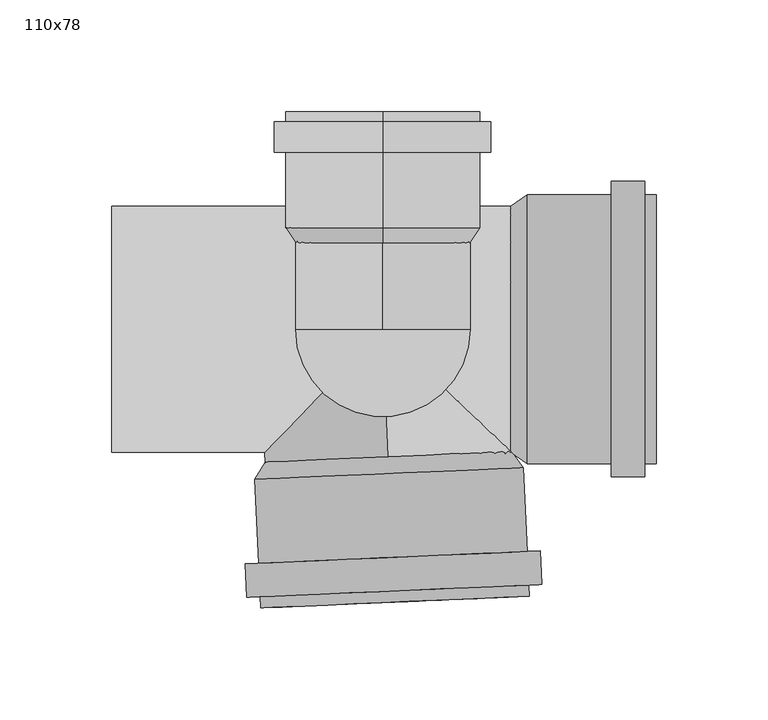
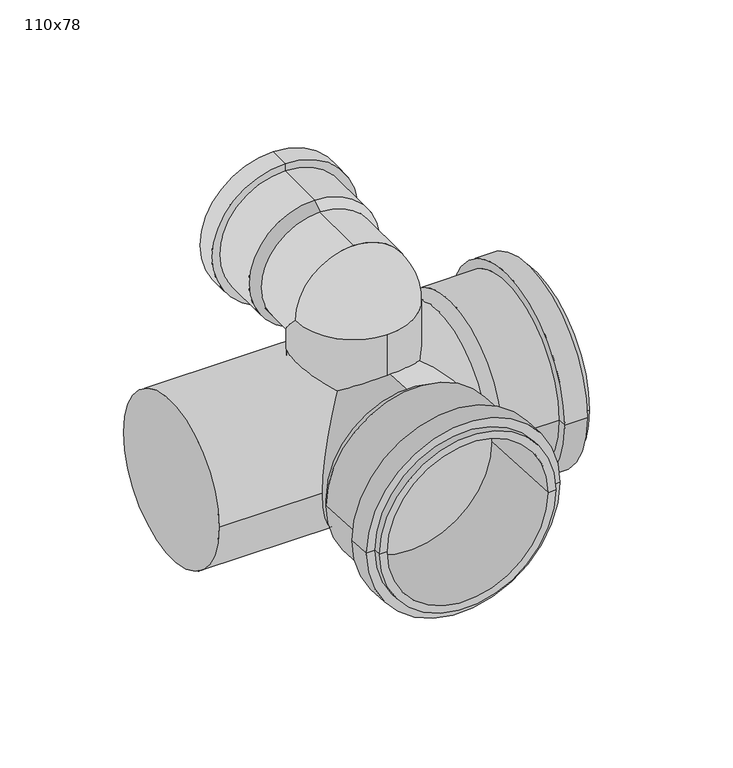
"""IFC4 building model written with IfcOpenShell, lengths in millimetres: pipe fitting geometry, AliaxisFR_Friaphon_LeftMultipleBranch_FR : 110x78."""

import ifcopenshell
import ifcopenshell.guid

model = None  # the IFC model being written
_history = None  # IfcOwnerHistory: only IFC2X3 demands one
_inside = {}  # id of a spatial element -> (the spatial element, [elements in it])
_under = {}  # id of a project, library or spatial element -> (it, [spatial elements below it])
_declared = {}  # id of a project -> (the project, [libraries it declares])
_typed = {}  # id of a type object -> (the type object, [elements of that type])
_made_of = {}  # id of a material, layer set ... -> (it, [elements and type objects made of it])


def new_model(schema):
    """Start an empty IFC model of exactly this schema.

    Asked for "IFC4X3", IfcOpenShell would pick the latest addendum, in which some entities
    have other attributes; the version numbers below select the first issue.
    IFC2X3 requires an IfcOwnerHistory on every rooted entity: one is made here for all.
    """
    global model, _history
    if schema == "IFC4X3":
        model = ifcopenshell.file(schema_version=(4, 3, 0, 0))
    else:
        model = ifcopenshell.file(schema=schema)
    _inside.clear()
    _under.clear()
    _declared.clear()
    _typed.clear()
    _made_of.clear()
    _history = None
    if model.schema == "IFC2X3":
        org = make("IfcOrganization", Name="unknown")
        user = make(
            "IfcPersonAndOrganization",
            ThePerson=make("IfcPerson", FamilyName="unknown"),
            TheOrganization=org,
        )
        app = make(
            "IfcApplication",
            ApplicationDeveloper=org,
            Version="unknown",
            ApplicationFullName="unknown",
            ApplicationIdentifier="unknown",
        )
        _history = make(
            "IfcOwnerHistory",
            OwningUser=user,
            OwningApplication=app,
            ChangeAction="ADDED",
            CreationDate=0,
        )
    return model


def make(cls, **values):
    """One entity of the class cls with the attributes given. An attribute that is None is left unset."""
    return model.create_entity(
        cls, **{name: value for name, value in values.items() if value is not None}
    )


def rooted(cls, **values):
    """An entity with a GlobalId (a new one), such as an element, a storey or a relation."""
    return make(cls, GlobalId=ifcopenshell.guid.new(), OwnerHistory=_history, **values)


def si_unit(unit_type, name, prefix=None):
    """IfcSIUnit, for example si_unit("LENGTHUNIT", "METRE", prefix="MILLI")."""
    return make("IfcSIUnit", UnitType=unit_type, Prefix=prefix, Name=name)


def assignment(units):
    """IfcUnitAssignment: the units of a project."""
    return None if units is None else make("IfcUnitAssignment", Units=units)


def point(xyz):
    """IfcCartesianPoint."""
    return None if xyz is None else make("IfcCartesianPoint", Coordinates=xyz)


def direction(xyz):
    """IfcDirection."""
    return None if xyz is None else make("IfcDirection", DirectionRatios=xyz)


def frame(location, z_axis=None, x_axis=None):
    """IfcAxis2Placement3D, a coordinate frame: its origin and axes. An axis left out is left unset."""
    return make(
        "IfcAxis2Placement3D",
        Location=point(location),
        Axis=direction(z_axis),
        RefDirection=direction(x_axis),
    )


def origin():
    """The frame at (0, 0, 0) with its axes left unset."""
    return frame((0.0, 0.0, 0.0))


def place(relative_to, where):
    """IfcLocalPlacement: puts the frame where relative to a parent placement (None: the world)."""
    return make(
        "IfcLocalPlacement", PlacementRelTo=relative_to, RelativePlacement=where
    )


def context(
    kind, dimensions, precision=None, world=None, true_north=None, identifier=None
):
    """IfcGeometricRepresentationContext, for example the 3D "Model" context."""
    return make(
        "IfcGeometricRepresentationContext",
        ContextIdentifier=identifier,
        ContextType=kind,
        CoordinateSpaceDimension=dimensions,
        Precision=precision,
        WorldCoordinateSystem=world,
        TrueNorth=true_north,
    )


def project(units=None, contexts=None):
    """IfcProject with its units and contexts."""
    return rooted(
        "IfcProject",
        Name="project",
        RepresentationContexts=contexts,
        UnitsInContext=assignment(units),
    )


def spatial(cls, under=None, at=None, **own):
    """A site, building, storey or space (cls), placed at a placement, below another one or the project."""
    s = rooted(cls, ObjectPlacement=at, **own)
    if under is not None:
        _under.setdefault(under.id(), (under, []))[1].append(s)
    return s


def polyline(points):
    """IfcPolyline through the points."""
    return make("IfcPolyline", Points=[point(p) for p in points])


def circle_curve(where, radius):
    """IfcCircle in the frame where."""
    return make("IfcCircle", Position=where, Radius=radius)


def ellipse_curve(where, semi_axis1, semi_axis2):
    """IfcEllipse in the frame where."""
    return make(
        "IfcEllipse", Position=where, SemiAxis1=semi_axis1, SemiAxis2=semi_axis2
    )


def trimmed(basis, trim1, trim2, sense, master):
    """IfcTrimmedCurve: the piece of a basis curve between two trims."""
    return make(
        "IfcTrimmedCurve",
        BasisCurve=basis,
        Trim1=trim1,
        Trim2=trim2,
        SenseAgreement=sense,
        MasterRepresentation=master,
    )


def shape(context_of_items, identifier, shape_type, items):
    """IfcShapeRepresentation: the items that make up one representation, for example the "Body"."""
    return make(
        "IfcShapeRepresentation",
        ContextOfItems=context_of_items,
        RepresentationIdentifier=identifier,
        RepresentationType=shape_type,
        Items=items,
    )


def source(mapping_origin, context_of_items, identifier, shape_type, items):
    """IfcRepresentationMap: a shape defined once, which mapped items show again and again."""
    return make(
        "IfcRepresentationMap",
        MappingOrigin=mapping_origin,
        MappedRepresentation=shape(context_of_items, identifier, shape_type, items),
    )


def transform(
    local_origin,
    x_axis=None,
    y_axis=None,
    z_axis=None,
    scale=None,
    scale2=None,
    scale3=None,
    uniform=True,
):
    """IfcCartesianTransformationOperator3D, or its non-uniform kind. x_axis, y_axis, z_axis: its Axis1, 2, 3."""
    if uniform:
        return make(
            "IfcCartesianTransformationOperator3D",
            Axis1=direction(x_axis),
            Axis2=direction(y_axis),
            LocalOrigin=point(local_origin),
            Scale=scale,
            Axis3=direction(z_axis),
        )
    return make(
        "IfcCartesianTransformationOperator3DnonUniform",
        Axis1=direction(x_axis),
        Axis2=direction(y_axis),
        LocalOrigin=point(local_origin),
        Scale=scale,
        Axis3=direction(z_axis),
        Scale2=scale2,
        Scale3=scale3,
    )


def mapped(mapping_source, mapping_target):
    """IfcMappedItem: shows the shape of a source again, moved by a transform."""
    return make(
        "IfcMappedItem", MappingSource=mapping_source, MappingTarget=mapping_target
    )


def made_of(thing, what):
    """Note that an element or type object is made of a material, layer set ...; save() writes the relation."""
    if what is not None:
        _made_of.setdefault(what.id(), (what, []))[1].append(thing)
    return thing


def element(
    cls,
    number,
    at=None,
    inside=None,
    cuts=None,
    type_object=None,
    material=None,
    context=None,
    identifier="Body",
    shape_type=None,
    held_by="IfcProductDefinitionShape",
    body=None,
    shapes=None,
    **own,
):
    """One element of the class cls, such as IfcWall. Its Tag is "e" and its number.

    at: its placement. inside: the storey or other place that contains it. cuts: it is an
    opening in that element (IfcRelVoidsElement). A single representation is given by context,
    identifier, shape_type and body (its items); several are given by shapes. held_by: the class
    of the entity that holds the representations. save() writes the other relations.
    """
    e = rooted(cls, Tag="e%d" % number, ObjectPlacement=at, **own)
    if body is not None:
        shapes = [shape(context, identifier, shape_type, body)]
    if shapes is not None:
        e.Representation = make(held_by, Representations=shapes)
    if inside is not None:
        _inside.setdefault(inside.id(), (inside, []))[1].append(e)
    if cuts is not None:
        rooted(
            "IfcRelVoidsElement", RelatingBuildingElement=cuts, RelatedOpeningElement=e
        )
    if type_object is not None:
        _typed.setdefault(type_object.id(), (type_object, []))[1].append(e)
    return made_of(e, material)


def aggregate(whole, parts):
    """IfcRelAggregates: a whole, such as a stair, and the parts it consists of."""
    return rooted("IfcRelAggregates", RelatingObject=whole, RelatedObjects=parts)


def save(model, path):
    """Write the relations noted so far, then the file.

    IfcRelAggregates (storeys below a building ...), IfcRelContainedInSpatialStructure (elements
    in a storey), IfcRelDefinesByType, IfcRelAssociatesMaterial and IfcRelDeclares: one each for
    every whole, place, type object, material and project.
    """
    for whole, parts in _under.values():
        aggregate(whole, parts)
    for where, things in _inside.values():
        rooted(
            "IfcRelContainedInSpatialStructure",
            RelatedElements=things,
            RelatingStructure=where,
        )
    for kind, things in _typed.values():
        rooted("IfcRelDefinesByType", RelatedObjects=things, RelatingType=kind)
    for what, things in _made_of.values():
        rooted("IfcRelAssociatesMaterial", RelatedObjects=things, RelatingMaterial=what)
    for by, libraries in _declared.values():
        rooted("IfcRelDeclares", RelatingContext=by, RelatedDefinitions=libraries)
    model.write(path)


def plane_surface(at):
    """IfcPlane: the flat surface through the origin of the frame at, square to its z axis."""
    return make("IfcPlane", Position=at)


def cylinder_surface(at, radius):
    """IfcCylindricalSurface: all points at the distance radius from the z axis of the frame at."""
    return make("IfcCylindricalSurface", Position=at, Radius=radius)


def revolved_surface(curve, axis_point, axis_direction):
    """IfcSurfaceOfRevolution: the curve turned about the line through axis_point along axis_direction."""
    return make(
        "IfcSurfaceOfRevolution",
        SweptCurve=make("IfcArbitraryOpenProfileDef", ProfileType="CURVE", Curve=curve),
        AxisPosition=make("IfcAxis1Placement", Location=point(axis_point), Axis=direction(axis_direction)),
    )


def advanced_brep(points, edges, surfaces, faces):
    """IfcAdvancedBrep: a solid bounded by faces that lie on surfaces and meet in shared edges.

    An edge is (start, end): straight between two places in points (the first is 0);
    or (start, end, curve); or (start, end, curve, False) where it runs against its curve.
    A face is (place in surfaces, loops), or (place, loops, False) where it looks against
    its surface's normal. A loop lists edges by number (the first is 1), with a minus sign
    where the edge is run from its end to its start. The first loop is the outer one.
    """
    corners = [point(p) for p in points]
    vertices = [make("IfcVertexPoint", VertexGeometry=c) for c in corners]
    made = []
    for start, end, *more in edges:
        made.append(
            make(
                "IfcEdgeCurve",
                EdgeStart=vertices[start],
                EdgeEnd=vertices[end],
                EdgeGeometry=more[0] if more else make("IfcPolyline", Points=[corners[start], corners[end]]),
                SameSense=more[1] if len(more) > 1 else True,
            )
        )
    hull = []
    for where, loops, *sense in faces:
        bounds = []
        for j, loop in enumerate(loops):
            ring = [make("IfcOrientedEdge", EdgeElement=made[abs(k) - 1], Orientation=k > 0) for k in loop]
            bounds.append(
                make(
                    "IfcFaceOuterBound" if j == 0 else "IfcFaceBound",
                    Bound=make("IfcEdgeLoop", EdgeList=ring),
                    Orientation=True,
                )
            )
        hull.append(make("IfcAdvancedFace", Bounds=bounds, FaceSurface=surfaces[where], SameSense=sense[0] if sense else True))
    return make("IfcAdvancedBrep", Outer=make("IfcClosedShell", CfsFaces=hull))


def pipe_fitting_110x78_2bed6c42(model_context):
    return source(origin(), model_context, "Body", "AdvancedBrep", [
        advanced_brep(
        [(0.0, 97.0, 126.4), (0.0, 97.0, 122.0), (0.0, 97.0, 44.0), (0.0, 97.0, 39.6), (0.0, 79.0, 131.5), (0.0, 92.6, 131.5), (0.0, 92.6, 34.5), (0.0, 79.0, 34.5), (0.0, 79.0, 126.4), (0.0, 79.0, 39.6), (0.0, 45.2, 126.4), (0.0, 45.2, 39.6), (0.0, 38.6, 122.0), (0.0, 38.6, 44.0), (0.0, 92.6, 126.4), (0.0, 92.6, 39.6)],
        [
            (0, 1),
            (1, 2, circle_curve(frame((0.0, 97.0, 83.0), z_axis=(0.0, -1.0, 0.0), x_axis=(0.0, 0.0, -1.0)), 39.0)),
            (2, 3),
            (3, 0, circle_curve(frame((0.0, 97.0, 83.0), z_axis=(0.0, 1.0, 0.0), x_axis=(0.0, 0.0, -1.0)), 43.4)),
            (2, 1, circle_curve(frame((0.0, 97.0, 83.0), z_axis=(0.0, -1.0, 0.0), x_axis=(0.0, 0.0, -1.0)), 39.0)),
            (0, 3, circle_curve(frame((0.0, 97.0, 83.0), z_axis=(0.0, 1.0, 0.0), x_axis=(0.0, 0.0, -1.0)), 43.4)),
            (4, 5),
            (5, 6, circle_curve(frame((0.0, 92.6, 83.0), z_axis=(0.0, -1.0, 0.0), x_axis=(0.0, 0.0, -1.0)), 48.5)),
            (6, 7),
            (7, 4, circle_curve(frame((0.0, 79.0, 83.0), z_axis=(0.0, 1.0, 0.0), x_axis=(0.0, 0.0, -1.0)), 48.5)),
            (6, 5, circle_curve(frame((0.0, 92.6, 83.0), z_axis=(0.0, -1.0, 0.0), x_axis=(0.0, 0.0, -1.0)), 48.5)),
            (4, 7, circle_curve(frame((0.0, 79.0, 83.0), z_axis=(0.0, 1.0, 0.0), x_axis=(0.0, 0.0, -1.0)), 48.5)),
            (8, 4),
            (7, 9),
            (9, 8, circle_curve(frame((0.0, 79.0, 83.0), z_axis=(0.0, 1.0, 0.0), x_axis=(0.0, 0.0, -1.0)), 43.4)),
            (8, 9, circle_curve(frame((0.0, 79.0, 83.0), z_axis=(0.0, 1.0, 0.0), x_axis=(0.0, 0.0, -1.0)), 43.4)),
            (10, 8),
            (9, 11),
            (11, 10, circle_curve(frame((0.0, 45.2, 83.0), z_axis=(0.0, 1.0, 0.0), x_axis=(0.0, 0.0, -1.0)), 43.4)),
            (10, 11, circle_curve(frame((0.0, 45.2, 83.0), z_axis=(0.0, 1.0, 0.0), x_axis=(0.0, 0.0, -1.0)), 43.4)),
            (1, 12),
            (12, 13, circle_curve(frame((0.0, 38.6, 83.0), z_axis=(0.0, -1.0, 0.0), x_axis=(0.0, 0.0, -1.0)), 39.0)),
            (13, 2),
            (13, 12, circle_curve(frame((0.0, 38.6, 83.0), z_axis=(0.0, -1.0, 0.0), x_axis=(0.0, 0.0, -1.0)), 39.0)),
            (12, 10),
            (11, 13),
            (14, 0),
            (3, 15),
            (15, 14, circle_curve(frame((0.0, 92.6, 83.0), z_axis=(0.0, 1.0, 0.0), x_axis=(0.0, 0.0, -1.0)), 43.4)),
            (14, 15, circle_curve(frame((0.0, 92.6, 83.0), z_axis=(0.0, 1.0, 0.0), x_axis=(0.0, 0.0, -1.0)), 43.4)),
            (5, 14),
            (15, 6),
        ],
        [
            plane_surface(frame((0.0, 97.0, 83.0), z_axis=(0.0, 1.0, 0.0), x_axis=(0.0, 0.0, -1.0))),
            cylinder_surface(frame((0.0, 38.6, 83.0), z_axis=(0.0, -1.0, 0.0), x_axis=(0.0, 0.0, -1.0)), 48.5),
            plane_surface(frame((0.0, 79.0, 83.0), z_axis=(0.0, -1.0, 0.0), x_axis=(0.0, 0.0, -1.0))),
            cylinder_surface(frame((0.0, 38.6, 83.0), z_axis=(0.0, -1.0, 0.0), x_axis=(0.0, 0.0, -1.0)), 43.4),
            revolved_surface(polyline([(0.0, 38.6, 44.0), (0.0, 97.0, 44.0)]), (0.0, 38.6, 83.0), (0.0, -1.0, 0.0)),
            revolved_surface(polyline([(0.0, 45.2, 39.6), (0.0, 38.6, 44.0)]), (0.0, 38.6, 83.0), (0.0, -1.0, 0.0)),
            plane_surface(frame((0.0, 92.6, 83.0), z_axis=(0.0, 1.0, 0.0), x_axis=(0.0, 0.0, -1.0))),
        ],
        [
            (0, [[1, 2, 3, 4]]),
            (0, [[-3, 5, -1, 6]]),
            (1, [[7, 8, 9, 10]]),
            (1, [[-9, 11, -7, 12]]),
            (2, [[13, -10, 14, 15]]),
            (2, [[-14, -12, -13, 16]]),
            (3, [[17, -15, 18, 19]]),
            (3, [[-18, -16, -17, 20]]),
            (4, [[21, 22, 23, -2]]),
            (4, [[-23, 24, -21, -5]]),
            (5, [[25, -19, 26, -22]]),
            (5, [[-26, -20, -25, -24]]),
            (3, [[27, -4, 28, 29]]),
            (3, [[-28, -6, -27, 30]]),
            (6, [[31, -29, 32, -8]]),
            (6, [[-32, -30, -31, -11]]),
        ],
    ),
        advanced_brep(
        [(0.0, 43.0, 122.0), (0.0, 43.0, 44.0), (0.0, 0.0, 122.0), (39.0, 0.0, 83.0), (0.0, 39.0, 44.0), (-39.0, 0.0, 83.0), (0.0, -39.0, -12.0), (0.0, 39.0, -12.0), (0.0, -39.0, 83.0)],
        [
            (0, 1, circle_curve(frame((0.0, 43.0, 83.0), z_axis=(0.0, 1.0, 0.0), x_axis=(0.0, 0.0, -1.0)), 39.0)),
            (1, 0, circle_curve(frame((0.0, 43.0, 83.0), z_axis=(0.0, 1.0, 0.0), x_axis=(0.0, 0.0, -1.0)), 39.0)),
            (0, 2),
            (2, 3, circle_curve(frame((0.0, 0.0, 83.0), z_axis=(0.0, 1.0, 0.0), x_axis=(0.0, 0.0, -1.0)), 39.0)),
            (3, 4, ellipse_curve(frame((0.0, 0.0, 83.0), z_axis=(0.0, 0.7071067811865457, 0.7071067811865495), x_axis=(0.0, -0.7071067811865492, 0.7071067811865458)), 55.1543289, 39.0)),
            (4, 1),
            (4, 5, ellipse_curve(frame((0.0, 0.0, 83.0), z_axis=(0.0, 0.7071067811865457, 0.7071067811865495), x_axis=(0.0, -0.7071067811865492, 0.7071067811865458)), 55.1543289, 39.0)),
            (5, 2, circle_curve(frame((0.0, 0.0, 83.0), z_axis=(0.0, 1.0, 0.0), x_axis=(0.0, 0.0, -1.0)), 39.0)),
            (6, 7, circle_curve(frame((0.0, 0.0, -12.0), z_axis=(0.0, 0.0, -1.0), x_axis=(0.0, 1.0, 0.0)), 39.0)),
            (7, 6, circle_curve(frame((0.0, 0.0, -12.0), z_axis=(0.0, 0.0, -1.0), x_axis=(0.0, 1.0, 0.0)), 39.0)),
            (7, 4),
            (3, 8, circle_curve(frame((0.0, 0.0, 83.0), z_axis=(0.0, 0.0, -1.0), x_axis=(0.0, 1.0, 0.0)), 39.0)),
            (8, 6),
            (8, 5, circle_curve(frame((0.0, 0.0, 83.0), z_axis=(0.0, 0.0, -1.0), x_axis=(0.0, 1.0, 0.0)), 39.0)),
        ],
        [
            plane_surface(frame((0.0, 43.0, 83.0), z_axis=(0.0, 1.0, 0.0), x_axis=(1.0, 0.0, 0.0))),
            cylinder_surface(frame((0.0, 0.0, 83.0), z_axis=(0.0, -1.0, 0.0), x_axis=(0.0, 0.0, -1.0)), 39.0),
            plane_surface(frame((0.0, 0.0, -12.0), z_axis=(0.0, 0.0, -1.0), x_axis=(1.0, 0.0, 0.0))),
            cylinder_surface(frame((0.0, 0.0, -12.0), z_axis=(0.0, 0.0, -1.0), x_axis=(0.0, 1.0, 0.0)), 39.0),
            revolved_surface(trimmed(ellipse_curve(frame((0.0, 0.0, 83.0), z_axis=(0.0, -1.0, 0.0), x_axis=(0.0, 0.0, -1.0)), 39.0, 39.0), [point((39.0, 0.0, 83.0))], [point((-39.0, 0.0, 83.0))], True, "CARTESIAN"), (39.0, 0.0, 83.0), (-1.0, 0.0, 0.0)),
        ],
        [
            (0, [[1, 2]]),
            (1, [[3, 4, 5, 6, -1]]),
            (1, [[-6, 7, 8, -3, -2]]),
            (2, [[9, 10]]),
            (3, [[11, -5, 12, 13, -10]]),
            (3, [[-13, 14, -7, -11, -9]]),
            (4, [[-4, -8, -14, -12]]),
        ],
    ),
        advanced_brep(
        [(-54.621328, -124.5010463, 0.0), (65.2644586, -119.2667198, 0.0), (60.2692174, -119.4848167, 0.0), (-49.6260869, -124.2829493, 0.0), (-61.4880051, -104.7817982, 0.0), (70.3863601, -99.024039, 0.0), (71.0406509, -114.0097624, 0.0), (-60.8337143, -119.7675215, 0.0), (-55.4937158, -104.5200818, 0.0), (64.3920708, -99.2857554, 0.0), (-57.1294428, -67.0557735, 0.0), (62.7563438, -61.8214471, 0.0), (57.4339573, -54.5466823, 0.0), (-52.4613471, -59.3448149, 0.0), (-54.839425, -119.5058052, 0.0), (65.0463616, -114.2714787, 0.0)],
        [
            (0, 1, circle_curve(frame((5.3215653, -121.883883, 0.0), z_axis=(0.04361938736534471, -0.9990482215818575, 0.0), x_axis=(0.9990482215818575, 0.04361938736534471, 0.0)), 60.0)),
            (1, 2),
            (2, 3, circle_curve(frame((5.3215653, -121.883883, 0.0), z_axis=(-0.04361938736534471, 0.9990482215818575, 0.0), x_axis=(0.9990482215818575, 0.04361938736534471, 0.0)), 55.0)),
            (3, 0),
            (1, 0, circle_curve(frame((5.3215653, -121.883883, 0.0), z_axis=(0.04361938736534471, -0.9990482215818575, 0.0), x_axis=(0.9990482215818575, 0.04361938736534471, 0.0)), 60.0)),
            (3, 2, circle_curve(frame((5.3215653, -121.883883, 0.0), z_axis=(-0.04361938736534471, 0.9990482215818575, 0.0), x_axis=(0.9990482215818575, 0.04361938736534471, 0.0)), 55.0)),
            (4, 5, circle_curve(frame((4.4491775, -101.9029186, 0.0), z_axis=(0.04361938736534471, -0.9990482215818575, 0.0), x_axis=(0.9990482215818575, 0.04361938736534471, 0.0)), 66.0)),
            (5, 6),
            (6, 7, circle_curve(frame((5.1034683, -116.8886419, 0.0), z_axis=(-0.04361938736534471, 0.9990482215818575, 0.0), x_axis=(0.9990482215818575, 0.04361938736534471, 0.0)), 66.0)),
            (7, 4),
            (5, 4, circle_curve(frame((4.4491775, -101.9029186, 0.0), z_axis=(0.04361938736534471, -0.9990482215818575, 0.0), x_axis=(0.9990482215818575, 0.04361938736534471, 0.0)), 66.0)),
            (7, 6, circle_curve(frame((5.1034683, -116.8886419, 0.0), z_axis=(-0.04361938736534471, 0.9990482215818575, 0.0), x_axis=(0.9990482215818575, 0.04361938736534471, 0.0)), 66.0)),
            (8, 9, circle_curve(frame((4.4491775, -101.9029186, 0.0), z_axis=(0.04361938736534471, -0.9990482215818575, 0.0), x_axis=(0.9990482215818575, 0.04361938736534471, 0.0)), 60.0)),
            (9, 5),
            (4, 8),
            (9, 8, circle_curve(frame((4.4491775, -101.9029186, 0.0), z_axis=(0.04361938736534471, -0.9990482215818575, 0.0), x_axis=(0.9990482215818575, 0.04361938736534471, 0.0)), 60.0)),
            (10, 11, circle_curve(frame((2.8134505, -64.4386103, 0.0), z_axis=(0.04361938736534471, -0.9990482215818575, 0.0), x_axis=(0.9990482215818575, 0.04361938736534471, 0.0)), 60.0)),
            (11, 9),
            (8, 10),
            (11, 10, circle_curve(frame((2.8134505, -64.4386103, 0.0), z_axis=(0.04361938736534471, -0.9990482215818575, 0.0), x_axis=(0.9990482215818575, 0.04361938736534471, 0.0)), 60.0)),
            (2, 12),
            (12, 13, circle_curve(frame((2.4863051, -56.9457486, 0.0), z_axis=(-0.04361938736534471, 0.9990482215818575, 0.0), x_axis=(0.9990482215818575, 0.04361938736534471, 0.0)), 55.0)),
            (13, 3),
            (13, 12, circle_curve(frame((2.4863051, -56.9457486, 0.0), z_axis=(-0.04361938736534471, 0.9990482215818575, 0.0), x_axis=(0.9990482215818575, 0.04361938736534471, 0.0)), 55.0)),
            (12, 11),
            (10, 13),
            (14, 15, circle_curve(frame((5.1034683, -116.8886419, 0.0), z_axis=(0.04361938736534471, -0.9990482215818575, 0.0), x_axis=(0.9990482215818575, 0.04361938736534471, 0.0)), 60.0)),
            (15, 1),
            (0, 14),
            (15, 14, circle_curve(frame((5.1034683, -116.8886419, 0.0), z_axis=(0.04361938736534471, -0.9990482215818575, 0.0), x_axis=(0.9990482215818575, 0.04361938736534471, 0.0)), 60.0)),
            (6, 15),
            (14, 7),
        ],
        [
            plane_surface(frame((5.3215653, -121.883883, 0.0), z_axis=(0.04361938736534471, -0.9990482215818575, 0.0), x_axis=(0.9990482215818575, 0.04361938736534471, 0.0))),
            cylinder_surface(frame((2.4863051, -56.9457486, 0.0), z_axis=(-0.04361938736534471, 0.9990482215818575, 0.0), x_axis=(0.9990482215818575, 0.04361938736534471, 0.0)), 66.0),
            plane_surface(frame((4.4491775, -101.9029186, 0.0), z_axis=(-0.04361938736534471, 0.9990482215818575, 0.0), x_axis=(0.9990482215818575, 0.04361938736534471, 0.0))),
            cylinder_surface(frame((2.4863051, -56.9457486, 0.0), z_axis=(-0.04361938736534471, 0.9990482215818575, 0.0), x_axis=(0.9990482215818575, 0.04361938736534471, 0.0)), 60.0),
            revolved_surface(polyline([(57.43395728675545, -54.54668228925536, 0.0), (60.269217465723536, -119.48481669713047, 0.0)]), (2.4863051, -56.9457486, 0.0), (-0.04361938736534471, 0.9990482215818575, 0.0)),
            revolved_surface(polyline([(62.7563438, -61.8214471, 0.0), (57.4339573, -54.5466823, 0.0)]), (2.4863051, -56.9457486, 0.0), (-0.04361938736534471, 0.9990482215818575, 0.0)),
            plane_surface(frame((5.1034683, -116.8886419, 0.0), z_axis=(0.04361938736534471, -0.9990482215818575, 0.0), x_axis=(0.9990482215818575, 0.04361938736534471, 0.0))),
        ],
        [
            (0, [[1, 2, 3, 4]]),
            (0, [[5, -4, 6, -2]]),
            (1, [[7, 8, 9, 10]]),
            (1, [[11, -10, 12, -8]]),
            (2, [[13, 14, -7, 15]]),
            (2, [[16, -15, -11, -14]]),
            (3, [[17, 18, -13, 19]]),
            (3, [[20, -19, -16, -18]]),
            (4, [[-3, 21, 22, 23]]),
            (4, [[-6, -23, 24, -21]]),
            (5, [[-22, 25, -17, 26]]),
            (5, [[-24, -26, -20, -25]]),
            (3, [[27, 28, -1, 29]]),
            (3, [[30, -29, -5, -28]]),
            (6, [[-9, 31, -27, 32]]),
            (6, [[-12, -32, -30, -31]]),
        ],
    ),
        advanced_brep(
        [(122.0, -60.0, 0.0), (122.0, 60.0, 0.0), (122.0, 55.0, 0.0), (122.0, -55.0, 0.0), (102.0, -66.0, 0.0), (102.0, 66.0, 0.0), (117.0, 66.0, 0.0), (117.0, -66.0, 0.0), (102.0, -60.0, 0.0), (102.0, 60.0, 0.0), (64.5, -60.0, 0.0), (64.5, 60.0, 0.0), (57.0, 55.0, 0.0), (57.0, -55.0, 0.0), (117.0, -60.0, 0.0), (117.0, 60.0, 0.0)],
        [
            (0, 1, circle_curve(frame((122.0, 0.0, 0.0), z_axis=(1.0, 0.0, 0.0), x_axis=(0.0, 1.0, 0.0)), 60.0)),
            (1, 2),
            (2, 3, circle_curve(frame((122.0, 0.0, 0.0), z_axis=(-1.0, 0.0, 0.0), x_axis=(0.0, 1.0, 0.0)), 55.0)),
            (3, 0),
            (1, 0, circle_curve(frame((122.0, 0.0, 0.0), z_axis=(1.0, 0.0, 0.0), x_axis=(0.0, 1.0, 0.0)), 60.0)),
            (3, 2, circle_curve(frame((122.0, 0.0, 0.0), z_axis=(-1.0, 0.0, 0.0), x_axis=(0.0, 1.0, 0.0)), 55.0)),
            (4, 5, circle_curve(frame((102.0, 0.0, 0.0), z_axis=(1.0, 0.0, 0.0), x_axis=(0.0, 1.0, 0.0)), 66.0)),
            (5, 6),
            (6, 7, circle_curve(frame((117.0, 0.0, 0.0), z_axis=(-1.0, 0.0, 0.0), x_axis=(0.0, 1.0, 0.0)), 66.0)),
            (7, 4),
            (5, 4, circle_curve(frame((102.0, 0.0, 0.0), z_axis=(1.0, 0.0, 0.0), x_axis=(0.0, 1.0, 0.0)), 66.0)),
            (7, 6, circle_curve(frame((117.0, 0.0, 0.0), z_axis=(-1.0, 0.0, 0.0), x_axis=(0.0, 1.0, 0.0)), 66.0)),
            (8, 9, circle_curve(frame((102.0, 0.0, 0.0), z_axis=(1.0, 0.0, 0.0), x_axis=(0.0, 1.0, 0.0)), 60.0)),
            (9, 5),
            (4, 8),
            (9, 8, circle_curve(frame((102.0, 0.0, 0.0), z_axis=(1.0, 0.0, 0.0), x_axis=(0.0, 1.0, 0.0)), 60.0)),
            (10, 11, circle_curve(frame((64.5, 0.0, 0.0), z_axis=(1.0, 0.0, 0.0), x_axis=(0.0, 1.0, 0.0)), 60.0)),
            (11, 9),
            (8, 10),
            (11, 10, circle_curve(frame((64.5, 0.0, 0.0), z_axis=(1.0, 0.0, 0.0), x_axis=(0.0, 1.0, 0.0)), 60.0)),
            (2, 12),
            (12, 13, circle_curve(frame((57.0, 0.0, 0.0), z_axis=(-1.0, 0.0, 0.0), x_axis=(0.0, 1.0, 0.0)), 55.0)),
            (13, 3),
            (13, 12, circle_curve(frame((57.0, 0.0, 0.0), z_axis=(-1.0, 0.0, 0.0), x_axis=(0.0, 1.0, 0.0)), 55.0)),
            (12, 11),
            (10, 13),
            (14, 15, circle_curve(frame((117.0, 0.0, 0.0), z_axis=(1.0, 0.0, 0.0), x_axis=(0.0, 1.0, 0.0)), 60.0)),
            (15, 1),
            (0, 14),
            (15, 14, circle_curve(frame((117.0, 0.0, 0.0), z_axis=(1.0, 0.0, 0.0), x_axis=(0.0, 1.0, 0.0)), 60.0)),
            (6, 15),
            (14, 7),
        ],
        [
            plane_surface(frame((122.0, 0.0, 0.0), z_axis=(1.0, 0.0, 0.0), x_axis=(0.0, 1.0, 0.0))),
            cylinder_surface(frame((57.0, 0.0, 0.0), z_axis=(-1.0, 0.0, 0.0), x_axis=(0.0, 1.0, 0.0)), 66.0),
            plane_surface(frame((102.0, 0.0, 0.0), z_axis=(-1.0, 0.0, 0.0), x_axis=(0.0, 1.0, 0.0))),
            cylinder_surface(frame((57.0, 0.0, 0.0), z_axis=(-1.0, 0.0, 0.0), x_axis=(0.0, 1.0, 0.0)), 60.0),
            revolved_surface(polyline([(57.0, 55.0, 0.0), (122.0, 55.0, 0.0)]), (57.0, 0.0, 0.0), (-1.0, 0.0, 0.0)),
            revolved_surface(polyline([(64.5, 60.0, 0.0), (57.0, 55.0, 0.0)]), (57.0, 0.0, 0.0), (-1.0, 0.0, 0.0)),
            plane_surface(frame((117.0, 0.0, 0.0), z_axis=(1.0, 0.0, 0.0), x_axis=(0.0, 1.0, 0.0))),
        ],
        [
            (0, [[1, 2, 3, 4]]),
            (0, [[5, -4, 6, -2]]),
            (1, [[7, 8, 9, 10]]),
            (1, [[11, -10, 12, -8]]),
            (2, [[13, 14, -7, 15]]),
            (2, [[16, -15, -11, -14]]),
            (3, [[17, 18, -13, 19]]),
            (3, [[20, -19, -16, -18]]),
            (4, [[-3, 21, 22, 23]]),
            (4, [[-6, -23, 24, -21]]),
            (5, [[-22, 25, -17, 26]]),
            (5, [[-24, -26, -20, -25]]),
            (3, [[27, 28, -1, 29]]),
            (3, [[30, -29, -5, -28]]),
            (6, [[-9, 31, -27, 32]]),
            (6, [[-12, -32, -30, -31]]),
        ],
    ),
        advanced_brep(
        [(62.0, -55.0, 0.0), (62.0, 55.0, 0.0), (-121.0, -55.0, 0.0), (-121.0, 55.0, 0.0), (57.4537495, -55.0, 0.0), (0.0, 0.0, -55.0), (-52.6510458, -55.0, 0.0), (0.0, 0.0, 55.0), (2.704402, -61.9409897, -55.0), (2.704402, -61.9409897, 55.0)],
        [
            (0, 1, circle_curve(frame((62.0, 0.0, 0.0), z_axis=(1.0, 0.0, 0.0), x_axis=(0.0, 1.0, 0.0)), 55.0)),
            (1, 0, circle_curve(frame((62.0, 0.0, 0.0), z_axis=(1.0, 0.0, 0.0), x_axis=(0.0, 1.0, 0.0)), 55.0)),
            (2, 3, circle_curve(frame((-121.0, 0.0, 0.0), z_axis=(-1.0, 0.0, 0.0), x_axis=(0.0, 1.0, 0.0)), 55.0)),
            (3, 2, circle_curve(frame((-121.0, 0.0, 0.0), z_axis=(-1.0, 0.0, 0.0), x_axis=(0.0, 1.0, 0.0)), 55.0)),
            (0, 4),
            (4, 5, ellipse_curve(frame((0.0, 0.0, 0.0), z_axis=(0.6915130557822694, 0.7223639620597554, 0.0), x_axis=(0.7223639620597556, -0.6915130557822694, 0.0)), 79.5357362, 55.0)),
            (5, 6, ellipse_curve(frame((0.0, 0.0, 0.0), z_axis=(-0.7223639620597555, 0.6915130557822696, 0.0), x_axis=(0.6915130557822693, 0.7223639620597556, 0.0)), 76.1389035, 55.0)),
            (6, 2),
            (3, 1),
            (6, 7, ellipse_curve(frame((0.0, 0.0, 0.0), z_axis=(-0.7223639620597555, 0.6915130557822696, 0.0), x_axis=(0.6915130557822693, 0.7223639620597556, 0.0)), 76.1389035, 55.0)),
            (7, 4, ellipse_curve(frame((0.0, 0.0, 0.0), z_axis=(0.6915130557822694, 0.7223639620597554, 0.0), x_axis=(0.7223639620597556, -0.6915130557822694, 0.0)), 79.5357362, 55.0)),
            (8, 9, circle_curve(frame((2.704402, -61.9409897, 0.0), z_axis=(0.043619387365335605, -0.9990482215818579, 0.0), x_axis=(0.0, 0.0, 1.0)), 55.0)),
            (9, 8, circle_curve(frame((2.704402, -61.9409897, 0.0), z_axis=(0.043619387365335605, -0.9990482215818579, 0.0), x_axis=(0.0, 0.0, 1.0)), 55.0)),
            (8, 5),
            (7, 9),
        ],
        [
            plane_surface(frame((62.0, 55.0, 0.0), z_axis=(1.0, 0.0, 0.0), x_axis=(0.0, 0.0, 1.0))),
            plane_surface(frame((-121.0, 55.0, 0.0), z_axis=(-1.0, 0.0, 0.0), x_axis=(0.0, 0.0, -1.0))),
            cylinder_surface(frame((-121.0, 0.0, 0.0), z_axis=(1.0, 0.0, 0.0), x_axis=(0.0, 1.0, 0.0)), 55.0),
            plane_surface(frame((2.704402, -61.9409897, 55.0), z_axis=(0.04361938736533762, -0.9990482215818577, 0.0), x_axis=(-0.9990482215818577, -0.04361938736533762, 0.0))),
            cylinder_surface(frame((2.704402, -61.9409897, 0.0), z_axis=(-0.043619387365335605, 0.9990482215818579, 0.0), x_axis=(0.0, 0.0, 1.0)), 55.0),
        ],
        [
            (0, [[1, 2]]),
            (1, [[3, 4]]),
            (2, [[-1, 5, 6, 7, 8, -4, 9]]),
            (2, [[-2, -9, -3, -8, 10, 11, -5]]),
            (3, [[12, 13]]),
            (4, [[-12, 14, -6, -11, 15]]),
            (4, [[-13, -15, -10, -7, -14]]),
        ],
    ),
    ])


if __name__ == "__main__":
    model = new_model("IFC4")
    model_context = context("Model", 3, world=origin())
    ifc_project = project(units=[si_unit("LENGTHUNIT", "METRE", prefix="MILLI")], contexts=[model_context])
    site = spatial("IfcSite", under=ifc_project)
    building = spatial("IfcBuilding", under=site)
    placement = place(None, origin())
    pipe_fitting_110x78_shape = pipe_fitting_110x78_2bed6c42(model_context)
    element("IfcPipeFitting", 1, ObjectType="AliaxisFR_Friaphon_LeftMultipleBranch_FR : 110x78", at=placement, inside=building, context=model_context, shape_type="MappedRepresentation", body=[
        mapped(pipe_fitting_110x78_shape, transform((0.0, 0.0, 0.0), x_axis=(1.0, 0.0, 0.0), y_axis=(0.0, 1.0, 0.0), z_axis=(0.0, 0.0, 1.0))),
    ])
    save(model, "model.ifc")
